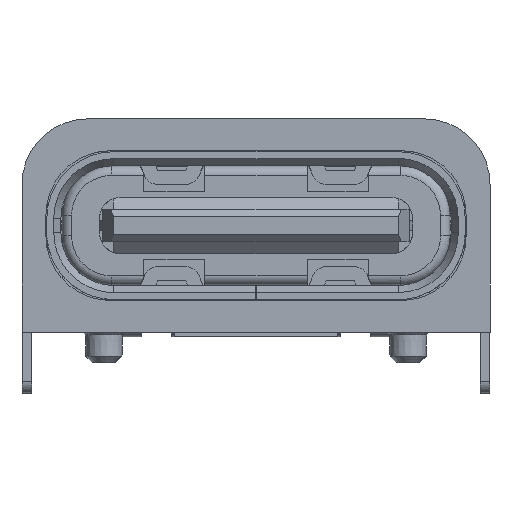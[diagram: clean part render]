
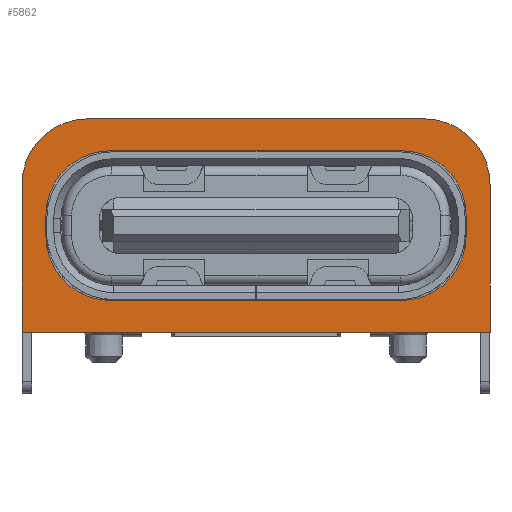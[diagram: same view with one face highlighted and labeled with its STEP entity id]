
A CAD part, front view. The second image highlights one B-rep face of the part: STEP entity #5862.
In plain terms, the highlighted planar face has unit normal (0, -1, 0).
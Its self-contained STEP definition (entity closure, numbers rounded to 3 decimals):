
#305 = DIRECTION ( 'NONE',  ( 0., -1., 0. ) ) ;
#381 = VECTOR ( 'NONE', #17275, 1000. ) ;
#442 = DIRECTION ( 'NONE',  ( 0., 0., 1. ) ) ;
#582 = CIRCLE ( 'NONE', #10795, 1.38 ) ;
#693 = AXIS2_PLACEMENT_3D ( 'NONE', #13233, #20109, #442 ) ;
#1460 = CIRCLE ( 'NONE', #5539, 1.38 ) ;
#1554 = ORIENTED_EDGE ( 'NONE', *, *, #19251, .F. ) ;
#1658 = EDGE_CURVE ( 'NONE', #2153, #16663, #19728, .T. ) ;
#1995 = CARTESIAN_POINT ( 'NONE',  ( 3.11, 1.2, 0.98 ) ) ;
#2066 = DIRECTION ( 'NONE',  ( 0., -1., 0. ) ) ;
#2153 = VERTEX_POINT ( 'NONE', #20855 ) ;
#2187 = LINE ( 'NONE', #6983, #9604 ) ;
#2690 = VERTEX_POINT ( 'NONE', #8097 ) ;
#3066 = ORIENTED_EDGE ( 'NONE', *, *, #19168, .F. ) ;
#3351 = EDGE_CURVE ( 'NONE', #14799, #26016, #19877, .T. ) ;
#3382 = AXIS2_PLACEMENT_3D ( 'NONE', #14505, #14816, #24257 ) ;
#3524 = CARTESIAN_POINT ( 'NONE',  ( 4.49, 1.2, 2.36 ) ) ;
#3735 = EDGE_CURVE ( 'NONE', #7052, #25098, #20147, .T. ) ;
#3963 = DIRECTION ( 'NONE',  ( 0., 1., 0. ) ) ;
#4288 = EDGE_CURVE ( 'NONE', #25415, #26364, #12307, .T. ) ;
#4632 = CARTESIAN_POINT ( 'NONE',  ( 0., 1.2, 0.98 ) ) ;
#4885 = ORIENTED_EDGE ( 'NONE', *, *, #3351, .F. ) ;
#4943 = DIRECTION ( 'NONE',  ( 1., 0., 0. ) ) ;
#5065 = DIRECTION ( 'NONE',  ( 0., -1., 0. ) ) ;
#5210 = VECTOR ( 'NONE', #11028, 1000. ) ;
#5539 = AXIS2_PLACEMENT_3D ( 'NONE', #11830, #2066, #27008 ) ;
#5737 = EDGE_LOOP ( 'NONE', ( #4885, #14383, #18216, #26633, #19799, #24912, #1554, #11068 ) ) ;
#5862 = ADVANCED_FACE ( 'NONE', ( #25219, #20429 ), #20589, .F. ) ;
#6759 = VERTEX_POINT ( 'NONE', #16963 ) ;
#6875 = VECTOR ( 'NONE', #14106, 1000. ) ;
#6958 = CIRCLE ( 'NONE', #24836, 1.4 ) ;
#6983 = CARTESIAN_POINT ( 'NONE',  ( 0., 1.2, 4.18 ) ) ;
#7052 = VERTEX_POINT ( 'NONE', #14327 ) ;
#7060 = CARTESIAN_POINT ( 'NONE',  ( -3.11, 1.2, 0.98 ) ) ;
#7292 = VECTOR ( 'NONE', #4943, 1000. ) ;
#7664 = DIRECTION ( 'NONE',  ( 0., 0., 1. ) ) ;
#8097 = CARTESIAN_POINT ( 'NONE',  ( 5., 1.2, 3.46 ) ) ;
#8682 = LINE ( 'NONE', #28652, #30073 ) ;
#8785 = CARTESIAN_POINT ( 'NONE',  ( 0., 1.2, 4.86 ) ) ;
#9604 = VECTOR ( 'NONE', #29214, 1000. ) ;
#10052 = ORIENTED_EDGE ( 'NONE', *, *, #10796, .F. ) ;
#10673 = ORIENTED_EDGE ( 'NONE', *, *, #30023, .F. ) ;
#10749 = AXIS2_PLACEMENT_3D ( 'NONE', #31330, #12314, #7664 ) ;
#10795 = AXIS2_PLACEMENT_3D ( 'NONE', #24303, #305, #26701 ) ;
#10796 = EDGE_CURVE ( 'NONE', #31043, #2690, #20989, .T. ) ;
#11028 = DIRECTION ( 'NONE',  ( 1., 0., 0. ) ) ;
#11068 = ORIENTED_EDGE ( 'NONE', *, *, #28759, .F. ) ;
#11800 = CARTESIAN_POINT ( 'NONE',  ( -4.49, 1.2, 2.8 ) ) ;
#11830 = CARTESIAN_POINT ( 'NONE',  ( -3.11, 1.2, 2.36 ) ) ;
#12175 = CARTESIAN_POINT ( 'NONE',  ( 5., 1.2, 0.3 ) ) ;
#12307 = LINE ( 'NONE', #4632, #7292 ) ;
#12314 = DIRECTION ( 'NONE',  ( 0., 1., 0. ) ) ;
#13233 = CARTESIAN_POINT ( 'NONE',  ( 0., 1.2, 0. ) ) ;
#13341 = CARTESIAN_POINT ( 'NONE',  ( 3.11, 1.2, 2.36 ) ) ;
#13881 = DIRECTION ( 'NONE',  ( 0., 0., 1. ) ) ;
#14106 = DIRECTION ( 'NONE',  ( -1., 0., 0. ) ) ;
#14301 = CARTESIAN_POINT ( 'NONE',  ( -5., 1.2, 3.46 ) ) ;
#14327 = CARTESIAN_POINT ( 'NONE',  ( -5., 1.2, 0.3 ) ) ;
#14383 = ORIENTED_EDGE ( 'NONE', *, *, #27524, .F. ) ;
#14475 = EDGE_CURVE ( 'NONE', #16663, #6759, #8682, .T. ) ;
#14505 = CARTESIAN_POINT ( 'NONE',  ( -3.11, 1.2, 2.8 ) ) ;
#14542 = ORIENTED_EDGE ( 'NONE', *, *, #21092, .F. ) ;
#14799 = VERTEX_POINT ( 'NONE', #3524 ) ;
#14816 = DIRECTION ( 'NONE',  ( 0., -1., 0. ) ) ;
#14905 = DIRECTION ( 'NONE',  ( 0., 0., -1. ) ) ;
#14910 = LINE ( 'NONE', #8785, #5210 ) ;
#15018 = EDGE_CURVE ( 'NONE', #6759, #25415, #1460, .T. ) ;
#15224 = LINE ( 'NONE', #22578, #28086 ) ;
#15884 = VERTEX_POINT ( 'NONE', #26769 ) ;
#16663 = VERTEX_POINT ( 'NONE', #11800 ) ;
#16848 = CARTESIAN_POINT ( 'NONE',  ( 3.6, 1.2, 4.86 ) ) ;
#16963 = CARTESIAN_POINT ( 'NONE',  ( -4.49, 1.2, 2.36 ) ) ;
#16983 = CARTESIAN_POINT ( 'NONE',  ( 5., 1.2, 0.3 ) ) ;
#17275 = DIRECTION ( 'NONE',  ( 0., 0., 1. ) ) ;
#18175 = CARTESIAN_POINT ( 'NONE',  ( 4.49, 1.2, 2.8 ) ) ;
#18216 = ORIENTED_EDGE ( 'NONE', *, *, #4288, .F. ) ;
#18746 = CARTESIAN_POINT ( 'NONE',  ( -3.6, 1.2, 4.86 ) ) ;
#19168 = EDGE_CURVE ( 'NONE', #25098, #21526, #6958, .T. ) ;
#19251 = EDGE_CURVE ( 'NONE', #15884, #2153, #2187, .T. ) ;
#19728 = CIRCLE ( 'NONE', #3382, 1.38 ) ;
#19799 = ORIENTED_EDGE ( 'NONE', *, *, #14475, .F. ) ;
#19877 = LINE ( 'NONE', #22581, #28988 ) ;
#20109 = DIRECTION ( 'NONE',  ( 0., 1., 0. ) ) ;
#20147 = LINE ( 'NONE', #24779, #381 ) ;
#20429 = FACE_BOUND ( 'NONE', #5737, .T. ) ;
#20589 = PLANE ( 'NONE',  #693 ) ;
#20855 = CARTESIAN_POINT ( 'NONE',  ( -3.11, 1.2, 4.18 ) ) ;
#20989 = CIRCLE ( 'NONE', #10749, 1.4 ) ;
#21083 = ORIENTED_EDGE ( 'NONE', *, *, #25421, .F. ) ;
#21092 = EDGE_CURVE ( 'NONE', #2690, #23733, #15224, .T. ) ;
#21308 = DIRECTION ( 'NONE',  ( 0., 0., -1. ) ) ;
#21397 = ORIENTED_EDGE ( 'NONE', *, *, #3735, .F. ) ;
#21526 = VERTEX_POINT ( 'NONE', #18746 ) ;
#22042 = CIRCLE ( 'NONE', #26132, 1.38 ) ;
#22421 = DIRECTION ( 'NONE',  ( 0., 0., 1. ) ) ;
#22578 = CARTESIAN_POINT ( 'NONE',  ( 5., 1.2, 0. ) ) ;
#22581 = CARTESIAN_POINT ( 'NONE',  ( 4.49, 1.2, 2.36 ) ) ;
#23733 = VERTEX_POINT ( 'NONE', #12175 ) ;
#24257 = DIRECTION ( 'NONE',  ( 0., 0., 1. ) ) ;
#24303 = CARTESIAN_POINT ( 'NONE',  ( 3.11, 1.2, 2.8 ) ) ;
#24333 = LINE ( 'NONE', #16983, #6875 ) ;
#24779 = CARTESIAN_POINT ( 'NONE',  ( -5., 1.2, 0. ) ) ;
#24836 = AXIS2_PLACEMENT_3D ( 'NONE', #28121, #3963, #13881 ) ;
#24912 = ORIENTED_EDGE ( 'NONE', *, *, #1658, .F. ) ;
#25098 = VERTEX_POINT ( 'NONE', #14301 ) ;
#25219 = FACE_OUTER_BOUND ( 'NONE', #27206, .T. ) ;
#25415 = VERTEX_POINT ( 'NONE', #7060 ) ;
#25421 = EDGE_CURVE ( 'NONE', #23733, #7052, #24333, .T. ) ;
#26016 = VERTEX_POINT ( 'NONE', #18175 ) ;
#26132 = AXIS2_PLACEMENT_3D ( 'NONE', #13341, #5065, #31607 ) ;
#26364 = VERTEX_POINT ( 'NONE', #1995 ) ;
#26633 = ORIENTED_EDGE ( 'NONE', *, *, #15018, .F. ) ;
#26701 = DIRECTION ( 'NONE',  ( 0., 0., 1. ) ) ;
#26769 = CARTESIAN_POINT ( 'NONE',  ( 3.11, 1.2, 4.18 ) ) ;
#27008 = DIRECTION ( 'NONE',  ( 0., 0., 1. ) ) ;
#27206 = EDGE_LOOP ( 'NONE', ( #21397, #21083, #14542, #10052, #10673, #3066 ) ) ;
#27524 = EDGE_CURVE ( 'NONE', #26364, #14799, #22042, .T. ) ;
#28086 = VECTOR ( 'NONE', #14905, 1000. ) ;
#28121 = CARTESIAN_POINT ( 'NONE',  ( -3.6, 1.2, 3.46 ) ) ;
#28652 = CARTESIAN_POINT ( 'NONE',  ( -4.49, 1.2, 2.8 ) ) ;
#28759 = EDGE_CURVE ( 'NONE', #26016, #15884, #582, .T. ) ;
#28988 = VECTOR ( 'NONE', #22421, 1000. ) ;
#29214 = DIRECTION ( 'NONE',  ( -1., 0., 0. ) ) ;
#30023 = EDGE_CURVE ( 'NONE', #21526, #31043, #14910, .T. ) ;
#30073 = VECTOR ( 'NONE', #21308, 1000. ) ;
#31043 = VERTEX_POINT ( 'NONE', #16848 ) ;
#31330 = CARTESIAN_POINT ( 'NONE',  ( 3.6, 1.2, 3.46 ) ) ;
#31607 = DIRECTION ( 'NONE',  ( 0., 0., 1. ) ) ;
